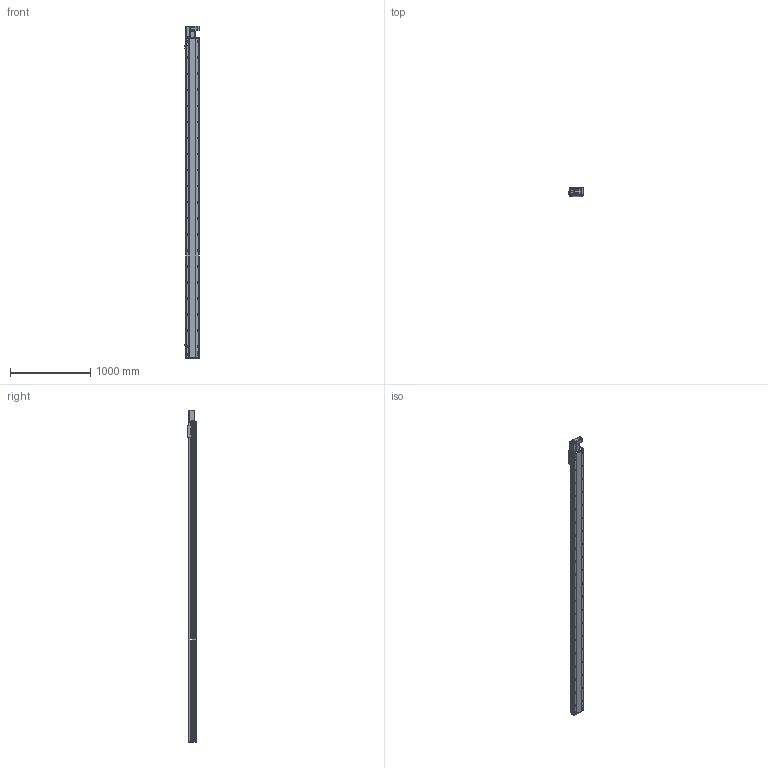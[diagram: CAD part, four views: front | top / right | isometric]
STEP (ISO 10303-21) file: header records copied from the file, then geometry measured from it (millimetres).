
FILE_DESCRIPTION (( 'STEP AP214' ), '1' );
FILE_NAME ('RTB17S-XX-3700-L-M40-C4.STEP', '2025-12-11T06:10:26', ( '' ), ( '' ), 'SwSTEP 2.0', 'SolidWorks 2018', '' );
FILE_SCHEMA (( 'AUTOMOTIVE_DESIGN' ));
Length unit declared in the file: millimetre
Products named in the file (14): RTB17S-L-004佪裝蹟譫蟀諉釱^RTB17S-XX-XX-L-M40-C4; OMRON EE-SX672 传感器^RTB17S-XX-XX-L-M40-C4; RTB14-L-017P^RTB17S-L-々湍釱蚾饜-400W_RTB17S-XX-XX-L-M40-C4; RTB17S-XX-3700-L-M40-C4; RMP17S-L-014-T20--々湍釱^RTB17S-L-々湍釱蚾饜-400W_RTB17S-XX-XX-L-M40-C4; RTB17S-L-001耜醱啣^RTB17S-XX-XX-L-M40-C4; RTB14-L-018P^RTB17S-L-々湍釱蚾饜-400W_RTB17S-XX-XX-L-M40-C4; RTB14-L-008-M20--萇儂啣^RTB17S-L-々湍釱蚾饜-400W_RTB17S-XX-XX-L-M40-C4; 400W侜督萇儂^RTB17S-XX-XX-L-M40-C4; RTB14-L-005P--轴承塑胶压盖^RTB17S-L-皮带座装配-400W_RTB17S-XX-XX-L-M40-C4; RTB17-R-011菁釱^RTB17S-XX-XX-L-M40-C4; RTB17S-L-007奻裔^RTB17S-XX-XX-L-M40-C4; RTB17S-L-々湍釱蚾饜-400W^RTB17S-XX-XX-L-M40-C4; RTH13-BL-012覜茼え俋离^RTB17S-XX-XX-L-M40-C4
Assembly tree (16 placements, depth 3):
  RTB17S-XX-3700-L-M40-C4
    RTB17-R-011菁釱^RTB17S-XX-XX-L-M40-C4
    RTB17S-L-007奻裔^RTB17S-XX-XX-L-M40-C4
    OMRON EE-SX672 传感器^RTB17S-XX-XX-L-M40-C4  x3
    RTB17S-L-001耜醱啣^RTB17S-XX-XX-L-M40-C4
    400W侜督萇儂^RTB17S-XX-XX-L-M40-C4
    RTB17S-L-004佪裝蹟譫蟀諉釱^RTB17S-XX-XX-L-M40-C4
    RTH13-BL-012覜茼え俋离^RTB17S-XX-XX-L-M40-C4
    RTB17S-L-々湍釱蚾饜-400W^RTB17S-XX-XX-L-M40-C4
      RMP17S-L-014-T20--々湍釱^RTB17S-L-々湍釱蚾饜-400W_RTB17S-XX-XX-L-M40-C4
      RTB14-L-005P--轴承塑胶压盖^RTB17S-L-皮带座装配-400W_RTB17S-XX-XX-L-M40-C4
      RTB14-L-008-M20--萇儂啣^RTB17S-L-々湍釱蚾饜-400W_RTB17S-XX-XX-L-M40-C4
      RTB14-L-017P^RTB17S-L-々湍釱蚾饜-400W_RTB17S-XX-XX-L-M40-C4  x2
      RTB14-L-018P^RTB17S-L-々湍釱蚾饜-400W_RTB17S-XX-XX-L-M40-C4
Bounding box: 186 x 108 x 4141 mm (x, y, z)
Volume: 34389986.7 mm3; surface area: 3900050.9 mm2
Topology: 15 solids, 15 shells, 2429 faces, 6843 edges, 4473 vertices
Faces by surface type: plane 1096, cylinder 885, bspline 301, cone 139, torus 8
Entity records: 73385 total; most frequent: CARTESIAN_POINT 21048, ORIENTED_EDGE 10530, DIRECTION 9656, EDGE_CURVE 5265, VERTEX_POINT 3461, AXIS2_PLACEMENT_3D 3391, LINE 2874, VECTOR 2874
